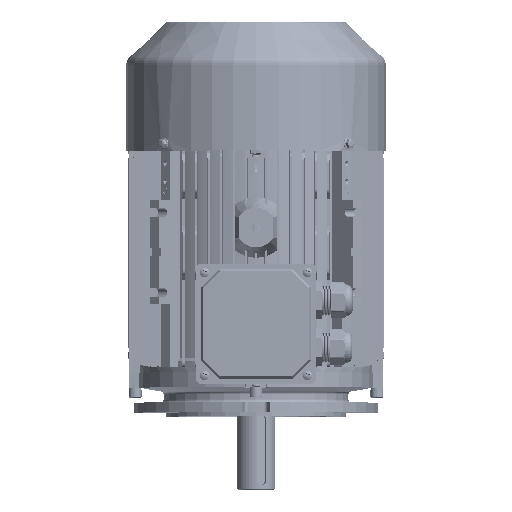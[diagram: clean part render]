
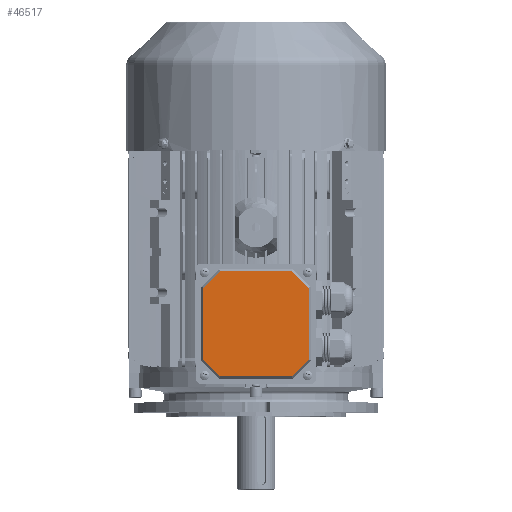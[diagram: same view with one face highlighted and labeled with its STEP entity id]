
A CAD part, top view. The second image highlights one B-rep face of the part: STEP entity #46517.
In plain terms, the highlighted planar face has unit normal (0, 0, 1) as drawn and (0, 0, -1) by its records, which use the part's own axes.
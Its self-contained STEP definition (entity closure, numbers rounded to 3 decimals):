
#1133 = VECTOR ( 'NONE', #119308, 1000. ) ;
#6164 = CARTESIAN_POINT ( 'NONE',  ( -52.536, -35.903, -4. ) ) ;
#6374 = CARTESIAN_POINT ( 'NONE',  ( -52.536, 35.903, -4. ) ) ;
#7072 = CARTESIAN_POINT ( 'NONE',  ( 52.536, 0., -4. ) ) ;
#7847 = LINE ( 'NONE', #97706, #1133 ) ;
#7893 = EDGE_LOOP ( 'NONE', ( #129070, #53349, #80631, #53968, #110423, #15652, #21569, #34998 ) ) ;
#9539 = CARTESIAN_POINT ( 'NONE',  ( -35.903, -52.536, -4. ) ) ;
#13031 = EDGE_CURVE ( 'NONE', #105388, #101451, #123714, .T. ) ;
#13928 = DIRECTION ( 'NONE',  ( 0., 0., 1. ) ) ;
#14372 = LINE ( 'NONE', #103083, #61481 ) ;
#15652 = ORIENTED_EDGE ( 'NONE', *, *, #105055, .F. ) ;
#20561 = LINE ( 'NONE', #7072, #70975 ) ;
#21569 = ORIENTED_EDGE ( 'NONE', *, *, #75063, .F. ) ;
#21990 = VECTOR ( 'NONE', #99901, 1000. ) ;
#23112 = LINE ( 'NONE', #103869, #76891 ) ;
#23456 = DIRECTION ( 'NONE',  ( -1., 0., 0. ) ) ;
#25995 = VECTOR ( 'NONE', #23456, 1000. ) ;
#31909 = EDGE_CURVE ( 'NONE', #33344, #47965, #7847, .T. ) ;
#33344 = VERTEX_POINT ( 'NONE', #137065 ) ;
#34998 = ORIENTED_EDGE ( 'NONE', *, *, #91040, .F. ) ;
#35635 = CARTESIAN_POINT ( 'NONE',  ( 0., -52.536, -4. ) ) ;
#35952 = CARTESIAN_POINT ( 'NONE',  ( 52.536, -35.903, -4. ) ) ;
#39584 = DIRECTION ( 'NONE',  ( -0.707, 0.707, 0. ) ) ;
#42187 = CARTESIAN_POINT ( 'NONE',  ( -44.22, 44.22, -4. ) ) ;
#44485 = VERTEX_POINT ( 'NONE', #9539 ) ;
#46517 = ADVANCED_FACE ( 'NONE', ( #50186 ), #78303, .F. ) ;
#47835 = CARTESIAN_POINT ( 'NONE',  ( -52.536, 0., -4. ) ) ;
#47965 = VERTEX_POINT ( 'NONE', #35952 ) ;
#50186 = FACE_OUTER_BOUND ( 'NONE', #7893, .T. ) ;
#53349 = ORIENTED_EDGE ( 'NONE', *, *, #31909, .F. ) ;
#53968 = ORIENTED_EDGE ( 'NONE', *, *, #123102, .F. ) ;
#57000 = VERTEX_POINT ( 'NONE', #80840 ) ;
#59986 = DIRECTION ( 'NONE',  ( 0.707, -0.707, 0. ) ) ;
#61481 = VECTOR ( 'NONE', #59986, 1000. ) ;
#63244 = VECTOR ( 'NONE', #69417, 1000. ) ;
#69417 = DIRECTION ( 'NONE',  ( 0., -1., 0. ) ) ;
#70975 = VECTOR ( 'NONE', #103744, 1000. ) ;
#72359 = VERTEX_POINT ( 'NONE', #109581 ) ;
#75063 = EDGE_CURVE ( 'NONE', #94069, #72359, #83141, .T. ) ;
#76891 = VECTOR ( 'NONE', #39584, 1000. ) ;
#78303 = PLANE ( 'NONE',  #115372 ) ;
#79140 = LINE ( 'NONE', #35635, #21990 ) ;
#80631 = ORIENTED_EDGE ( 'NONE', *, *, #136356, .F. ) ;
#80840 = CARTESIAN_POINT ( 'NONE',  ( 52.536, 35.903, -4. ) ) ;
#83141 = LINE ( 'NONE', #87768, #25995 ) ;
#83218 = LINE ( 'NONE', #42187, #111732 ) ;
#87768 = CARTESIAN_POINT ( 'NONE',  ( 0., 52.536, -4. ) ) ;
#89070 = DIRECTION ( 'NONE',  ( 1., 0., 0. ) ) ;
#91040 = EDGE_CURVE ( 'NONE', #57000, #94069, #23112, .T. ) ;
#94069 = VERTEX_POINT ( 'NONE', #102794 ) ;
#97706 = CARTESIAN_POINT ( 'NONE',  ( 44.22, -44.22, -4. ) ) ;
#99901 = DIRECTION ( 'NONE',  ( 1., 0., 0. ) ) ;
#101451 = VERTEX_POINT ( 'NONE', #6164 ) ;
#102794 = CARTESIAN_POINT ( 'NONE',  ( 35.903, 52.536, -4. ) ) ;
#103083 = CARTESIAN_POINT ( 'NONE',  ( -44.22, -44.22, -4. ) ) ;
#103744 = DIRECTION ( 'NONE',  ( 0., 1., 0. ) ) ;
#103869 = CARTESIAN_POINT ( 'NONE',  ( 44.22, 44.22, -4. ) ) ;
#105055 = EDGE_CURVE ( 'NONE', #72359, #105388, #83218, .T. ) ;
#105388 = VERTEX_POINT ( 'NONE', #6374 ) ;
#109581 = CARTESIAN_POINT ( 'NONE',  ( -35.903, 52.536, -4. ) ) ;
#110423 = ORIENTED_EDGE ( 'NONE', *, *, #13031, .F. ) ;
#111732 = VECTOR ( 'NONE', #128191, 1000. ) ;
#115372 = AXIS2_PLACEMENT_3D ( 'NONE', #131909, #13928, #89070 ) ;
#117954 = EDGE_CURVE ( 'NONE', #47965, #57000, #20561, .T. ) ;
#119308 = DIRECTION ( 'NONE',  ( 0.707, 0.707, 0. ) ) ;
#123102 = EDGE_CURVE ( 'NONE', #101451, #44485, #14372, .T. ) ;
#123714 = LINE ( 'NONE', #47835, #63244 ) ;
#128191 = DIRECTION ( 'NONE',  ( -0.707, -0.707, 0. ) ) ;
#129070 = ORIENTED_EDGE ( 'NONE', *, *, #117954, .F. ) ;
#131909 = CARTESIAN_POINT ( 'NONE',  ( 0., 0., -4. ) ) ;
#136356 = EDGE_CURVE ( 'NONE', #44485, #33344, #79140, .T. ) ;
#137065 = CARTESIAN_POINT ( 'NONE',  ( 35.903, -52.536, -4. ) ) ;
